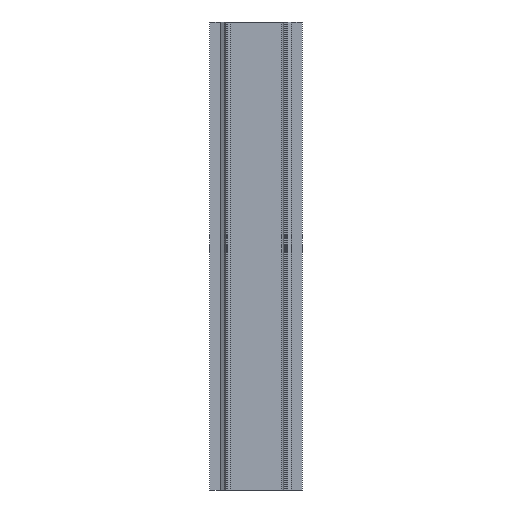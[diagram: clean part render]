
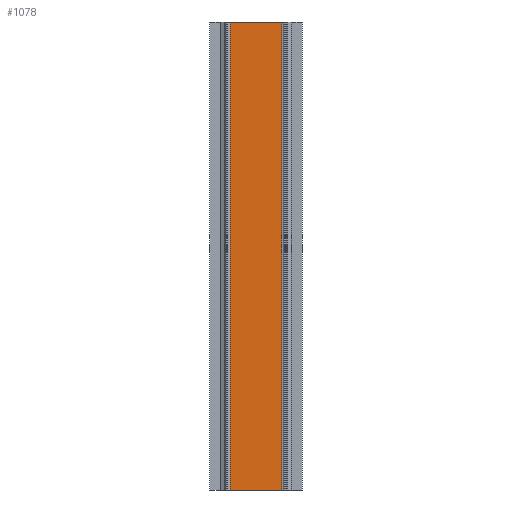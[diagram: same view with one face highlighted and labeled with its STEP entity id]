
A CAD part, front view. The second image highlights one B-rep face of the part: STEP entity #1078.
In plain terms, the highlighted planar face has unit normal (0, -1, 0).
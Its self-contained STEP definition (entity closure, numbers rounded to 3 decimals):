
#37=PLANE('',#1179);
#90=FACE_OUTER_BOUND('',#145,.T.);
#145=EDGE_LOOP('',(#915,#916,#917,#918));
#196=LINE('',#1644,#309);
#253=LINE('',#1793,#366);
#254=LINE('',#1796,#367);
#255=LINE('',#1797,#368);
#309=VECTOR('',#1302,11.);
#366=VECTOR('',#1465,100.);
#367=VECTOR('',#1468,11.);
#368=VECTOR('',#1469,100.);
#487=VERTEX_POINT('',#1641);
#488=VERTEX_POINT('',#1643);
#527=VERTEX_POINT('',#1791);
#528=VERTEX_POINT('',#1795);
#600=EDGE_CURVE('',#487,#488,#196,.T.);
#675=EDGE_CURVE('',#487,#527,#253,.T.);
#676=EDGE_CURVE('',#528,#527,#254,.T.);
#677=EDGE_CURVE('',#488,#528,#255,.T.);
#915=ORIENTED_EDGE('',*,*,#600,.F.);
#916=ORIENTED_EDGE('',*,*,#675,.T.);
#917=ORIENTED_EDGE('',*,*,#676,.F.);
#918=ORIENTED_EDGE('',*,*,#677,.F.);
#1078=ADVANCED_FACE('',(#90),#37,.T.);
#1179=AXIS2_PLACEMENT_3D('',#1794,#1466,#1467);
#1302=DIRECTION('',(-1.,0.,0.));
#1465=DIRECTION('',(0.,0.,1.));
#1466=DIRECTION('center_axis',(0.,-1.,0.));
#1467=DIRECTION('ref_axis',(1.,0.,0.));
#1468=DIRECTION('',(1.,0.,0.));
#1469=DIRECTION('',(0.,0.,1.));
#1641=CARTESIAN_POINT('',(8.706,32.827,0.));
#1643=CARTESIAN_POINT('',(-2.294,32.827,0.));
#1644=CARTESIAN_POINT('',(8.706,32.827,0.));
#1791=CARTESIAN_POINT('',(8.706,32.827,100.));
#1793=CARTESIAN_POINT('',(8.706,32.827,0.));
#1794=CARTESIAN_POINT('Origin',(-2.294,32.827,0.));
#1795=CARTESIAN_POINT('',(-2.294,32.827,100.));
#1796=CARTESIAN_POINT('',(8.706,32.827,100.));
#1797=CARTESIAN_POINT('',(-2.294,32.827,0.));
